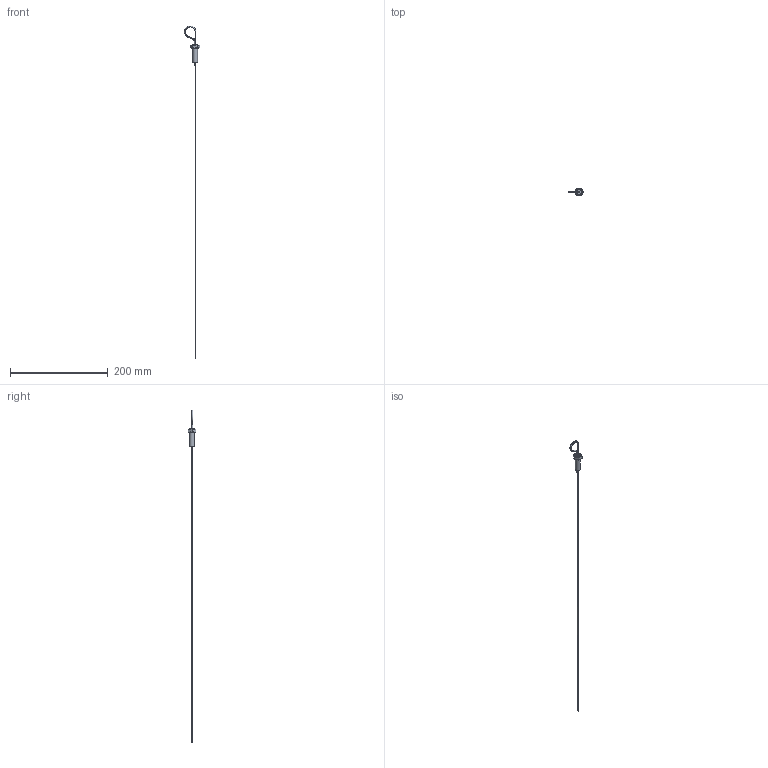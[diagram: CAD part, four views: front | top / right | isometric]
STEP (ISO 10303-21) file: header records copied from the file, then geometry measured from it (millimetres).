
FILE_DESCRIPTION((''),'2;1');
FILE_NAME('U:\Users\a.heinl\12171600.stp','2013-05-23T10:26:45',( 'User'),('SDRC'),'I-DEAS Master Series 9','UNIX','Yes');
FILE_SCHEMA(('AUTOMOTIVE_DESIGN { 1 0 10303 214 1 1 1 1 }'));
Length unit declared in the file: millimetre
Products named in the file (1): 12171600(319193)
Bounding box: 31.08 x 16.02 x 678.97 mm (x, y, z)
Volume: 7600.7 mm3; surface area: 8450.5 mm2
Topology: 1 solids, 1 shells, 47 faces, 113 edges, 79 vertices
Faces by surface type: bspline 47
Entity records: 1557 total; most frequent: CARTESIAN_POINT 873, ORIENTED_EDGE 208, EDGE_CURVE 104, VERTEX_POINT 64, EDGE_LOOP 54, FACE_OUTER_BOUND 47, ADVANCED_FACE 47, QUASI_UNIFORM_CURVE 29
